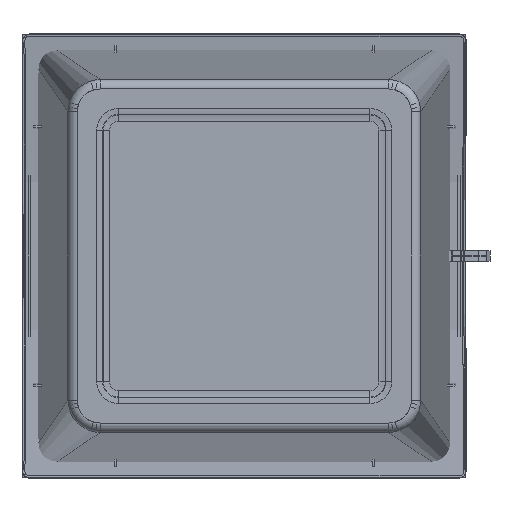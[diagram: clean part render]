
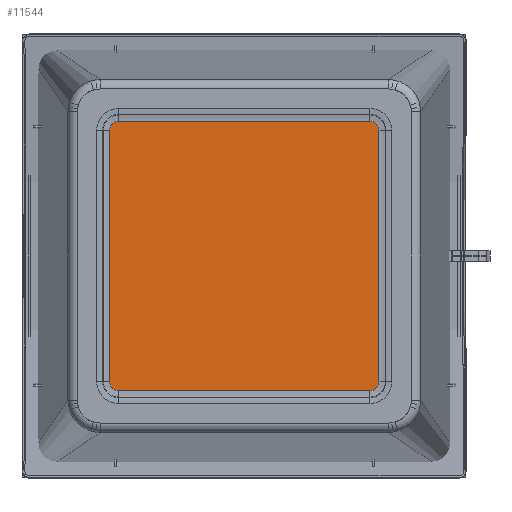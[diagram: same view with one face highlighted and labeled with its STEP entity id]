
A CAD part, front view. The second image highlights one B-rep face of the part: STEP entity #11544.
In plain terms, the highlighted planar face has unit normal (0, -1, 0).
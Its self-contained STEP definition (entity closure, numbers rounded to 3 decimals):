
#3800=DIRECTION('',(0.,0.,1.));
#3801=VECTOR('',#3800,194.536);
#3802=CARTESIAN_POINT('',(104.268,1.,
-97.268));
#3803=LINE('',#3802,#3801);
#3814=CARTESIAN_POINT('',(-97.268,1.,
-97.268));
#3815=DIRECTION('',(0.,1.,0.));
#3816=DIRECTION('',(0.,0.,-1.));
#3817=AXIS2_PLACEMENT_3D('',#3814,#3815,#3816);
#3822=CARTESIAN_POINT('',(-97.268,1.,
97.268));
#3823=DIRECTION('',(0.,1.,0.));
#3824=DIRECTION('',(-1.,0.,0.));
#3825=AXIS2_PLACEMENT_3D('',#3822,#3823,#3824);
#3830=CARTESIAN_POINT('',(97.268,1.,97.268));
#3831=DIRECTION('',(0.,1.,0.));
#3832=DIRECTION('',(0.,0.,1.));
#3833=AXIS2_PLACEMENT_3D('',#3830,#3831,#3832);
#3838=CARTESIAN_POINT('',(97.268,1.,
-97.268));
#3839=DIRECTION('',(0.,1.,0.));
#3840=DIRECTION('',(1.,0.,0.));
#3841=AXIS2_PLACEMENT_3D('',#3838,#3839,#3840);
#3853=DIRECTION('',(1.,0.,0.));
#3854=VECTOR('',#3853,194.536);
#3855=CARTESIAN_POINT('',(-97.268,1.,
-104.268));
#3856=LINE('',#3855,#3854);
#3905=DIRECTION('',(0.,0.,-1.));
#3906=VECTOR('',#3905,194.536);
#3907=CARTESIAN_POINT('',(-104.268,1.,
97.268));
#3908=LINE('',#3907,#3906);
#3975=DIRECTION('',(-1.,0.,0.));
#3976=VECTOR('',#3975,194.536);
#3977=CARTESIAN_POINT('',(97.268,1.,104.268));
#3978=LINE('',#3977,#3976);
#4452=CARTESIAN_POINT('',(104.268,1.,
-97.268));
#4453=CARTESIAN_POINT('',(104.268,1.,97.268));
#4454=VERTEX_POINT('',#4452);
#4455=VERTEX_POINT('',#4453);
#4456=CARTESIAN_POINT('',(-97.268,1.,
-104.268));
#4457=CARTESIAN_POINT('',(97.268,1.,
-104.268));
#4458=VERTEX_POINT('',#4456);
#4459=VERTEX_POINT('',#4457);
#4460=CARTESIAN_POINT('',(-104.268,1.,
-97.268));
#4461=VERTEX_POINT('',#4460);
#4462=CARTESIAN_POINT('',(-104.268,1.,
97.268));
#4463=VERTEX_POINT('',#4462);
#4464=CARTESIAN_POINT('',(-97.268,1.,
104.268));
#4465=VERTEX_POINT('',#4464);
#4466=CARTESIAN_POINT('',(97.268,1.,104.268));
#4467=VERTEX_POINT('',#4466);
#11522=CARTESIAN_POINT('',(-159.7,1.,0.));
#11523=DIRECTION('',(0.,-1.,0.));
#11524=DIRECTION('',(1.,0.,0.));
#11525=AXIS2_PLACEMENT_3D('',#11522,#11523,#11524);
#11526=PLANE('',#11525);
#11528=ORIENTED_EDGE('',*,*,#11527,.F.);
#11530=ORIENTED_EDGE('',*,*,#11529,.T.);
#11532=ORIENTED_EDGE('',*,*,#11531,.F.);
#11534=ORIENTED_EDGE('',*,*,#11533,.T.);
#11536=ORIENTED_EDGE('',*,*,#11535,.F.);
#11538=ORIENTED_EDGE('',*,*,#11537,.T.);
#11539=ORIENTED_EDGE('',*,*,#11512,.F.);
#11541=ORIENTED_EDGE('',*,*,#11540,.T.);
#11542=EDGE_LOOP('',(#11528,#11530,#11532,#11534,#11536,#11538,#11539,#11541));
#11543=FACE_OUTER_BOUND('',#11542,.F.);
#3818=CIRCLE('',#3817,7.);
#3826=CIRCLE('',#3825,7.);
#3834=CIRCLE('',#3833,7.);
#3842=CIRCLE('',#3841,7.);
#11512=EDGE_CURVE('',#4454,#4455,#3803,.T.);
#11527=EDGE_CURVE('',#4458,#4459,#3856,.T.);
#11529=EDGE_CURVE('',#4458,#4461,#3818,.T.);
#11531=EDGE_CURVE('',#4463,#4461,#3908,.T.);
#11533=EDGE_CURVE('',#4463,#4465,#3826,.T.);
#11535=EDGE_CURVE('',#4467,#4465,#3978,.T.);
#11537=EDGE_CURVE('',#4467,#4455,#3834,.T.);
#11540=EDGE_CURVE('',#4454,#4459,#3842,.T.);
#11544=ADVANCED_FACE('',(#11543),#11526,.T.);
